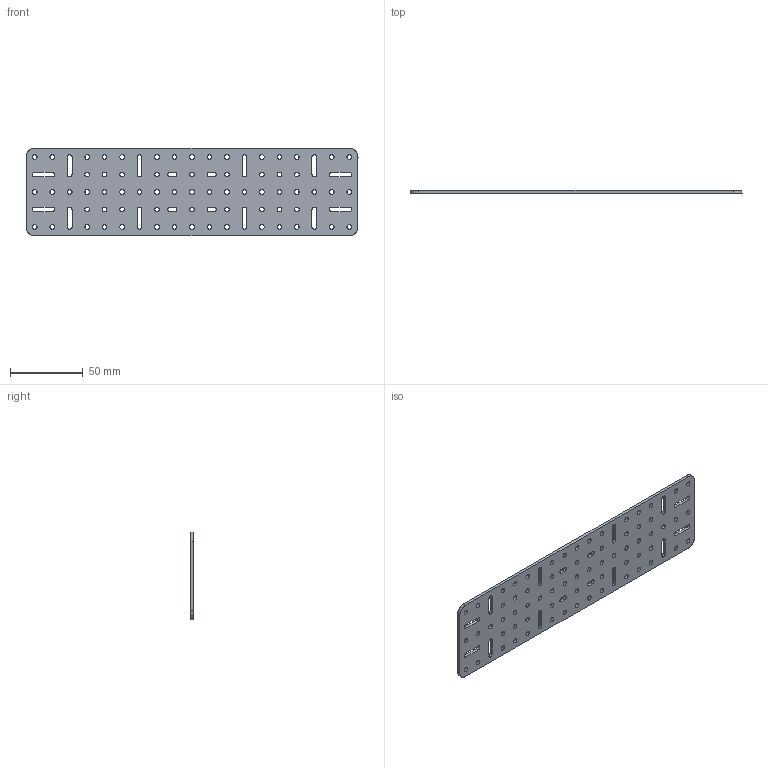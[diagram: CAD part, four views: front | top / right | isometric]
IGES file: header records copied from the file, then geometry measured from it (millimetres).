
Start section: SolidWorks IGES file using analytic representation for surfaces
Global section: file name: C:\Users\tahsi\Desktop\SMD\3D tasarýmlar\Building Set\5x19 Plate\5x19 Plate.IGS; native system: SolidWorks 2023; preprocessor: SolidWorks 2023; author: tahsi; date: 240613.121802; units: millimetre
Bounding box: 228 x 2 x 60 mm (x, y, z)
Surface area: 28388.9 mm2 (no closed solid volume)
Topology: 0 solids, 0 shells, 216 faces, 6304 edges, 6304 vertices
Faces by surface type: revolution 178, bspline 38
